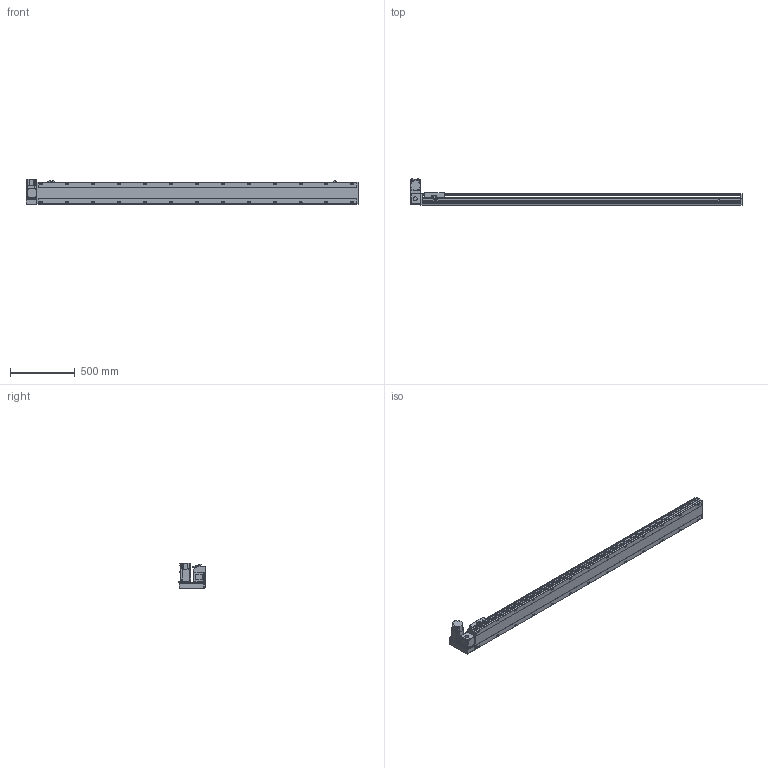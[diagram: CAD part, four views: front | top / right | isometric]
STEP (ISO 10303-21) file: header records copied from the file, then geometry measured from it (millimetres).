
FILE_DESCRIPTION(/* description */ ('STEP AP214'),/* implementation_level */ '2;1');
FILE_NAME(/* name */ 'PBS170-P40-S2200-LU-T75-C1-N(0)',/* time_stamp */ '2022-06-07T10:17:02+02:00',/* author */ ('License CC BY-ND 4.0'),/* organization */ ('CADENAS'),/* preprocessor_version */ 'ST-DEVELOPER v18.102',/* originating_system */ 'PARTsolutions',/* authorisation */ ' ');
FILE_SCHEMA (('AUTOMOTIVE_DESIGN {1 0 10303 214 3 1 1}'));
Length unit declared in the file: millimetre
Products named in the file (7): PBS170-P40-S2200-LU-T75-C1-N(0); PBS170_sensor; PBS170_plant; PBS170_sliser; T75-p1; PBS170T-LU_motors; PBS170-S2200()_body
Assembly tree (8 placements, depth 2):
  PBS170-P40-S2200-LU-T75-C1-N(0)
    PBS170_sensor  x3
    PBS170_plant
    PBS170_sliser
    T75-p1
    PBS170T-LU_motors
    PBS170-S2200()_body
Bounding box: 2563 x 206 x 197.3 mm (x, y, z)
Volume: 19543024.5 mm3; surface area: 2470893.9 mm2
Topology: 8 solids, 8 shells, 1162 faces, 3075 edges, 2004 vertices
Faces by surface type: plane 717, cylinder 379, cone 56, sphere 8, torus 2
Full cylindrical faces by diameter (mm): 3.242 x4, 4 x2, 4.4 x4, 4.5 x6, 4.917 x4, 6 x9, 6.647 x34, 7 x2, 7.5 x4, 8 x8, 8.5 x26, 10 x4, 10.5 x26, 11 x2, 30 x2, 40 x1, 70 x1
Entity records: 33408 total; most frequent: CARTESIAN_POINT 6273, DIRECTION 5650, ORIENTED_EDGE 5328, EDGE_CURVE 2664, AXIS2_PLACEMENT_3D 1987, VERTEX_POINT 1850, LINE 1676, VECTOR 1676
